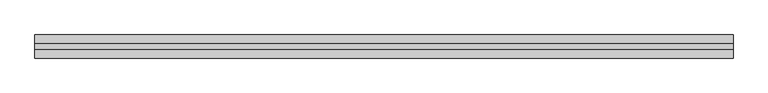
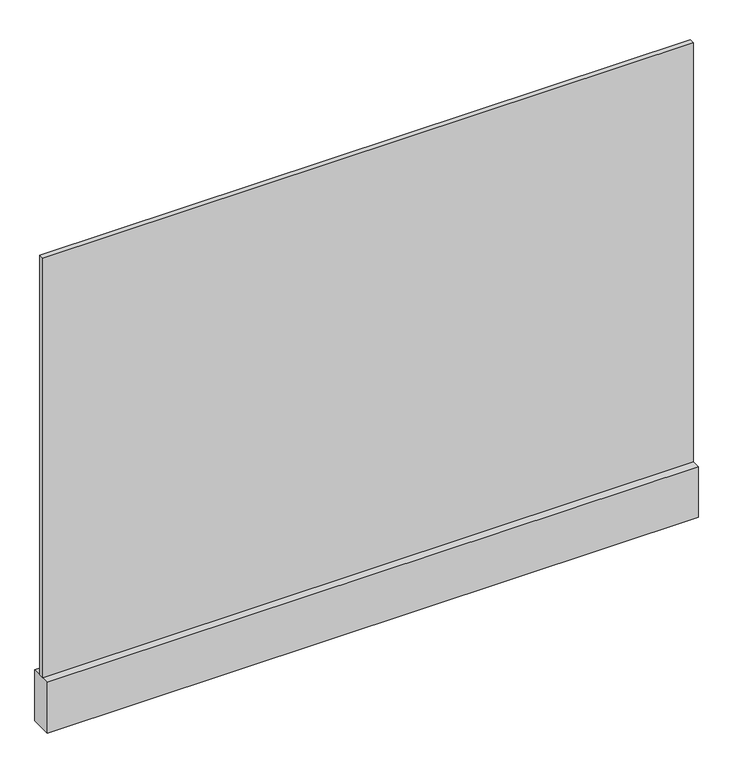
"""IFC4 building model written with IfcOpenShell, lengths in millimetres: plate geometry, r パネル FIX 下框付 : 框 H100."""

from ifc_helpers import new_model, si_unit, frame, origin, origin_with_axes, place, context, project, spatial, polyline, outline, extrude, source, transform, mapped, element, save


def plate_257e4bb4(model_context):
    return source(origin(), model_context, "Body", "SweptSolid", [
        extrude(outline(polyline([(-605.9309555, -5.0), (-605.9309555, 5.0), (605.9309555, 5.0), (605.9309555, -5.0), (-605.9309555, -5.0)])), frame((0.0, 0.0, 100.0), z_axis=(0.0, 0.0, 1.0), x_axis=(1.0, 0.0, 0.0)), (0.0, 0.0, 1.0), 825.0),
        extrude(outline(polyline([(-605.9309555, -20.0), (-605.9309555, 20.0), (605.9309555, 20.0), (605.9309555, -20.0), (-605.9309555, -20.0)])), origin_with_axes(), (0.0, 0.0, 1.0), 100.0),
    ])


if __name__ == "__main__":
    model = new_model("IFC4")
    model_context = context("Model", 3, world=origin())
    ifc_project = project(units=[si_unit("LENGTHUNIT", "METRE", prefix="MILLI")], contexts=[model_context])
    site = spatial("IfcSite", under=ifc_project)
    building = spatial("IfcBuilding", under=site)
    placement = place(None, origin())
    plate_shape = plate_257e4bb4(model_context)
    element("IfcPlate", 1, ObjectType="r パネル FIX 下框付 : 框 H100", at=placement, inside=building, context=model_context, shape_type="MappedRepresentation", body=[
        mapped(plate_shape, transform((0.0, 0.0, 0.0), x_axis=(1.0, 0.0, 0.0), y_axis=(0.0, 1.0, 0.0), z_axis=(0.0, 0.0, 1.0))),
    ])
    save(model, "model.ifc")
